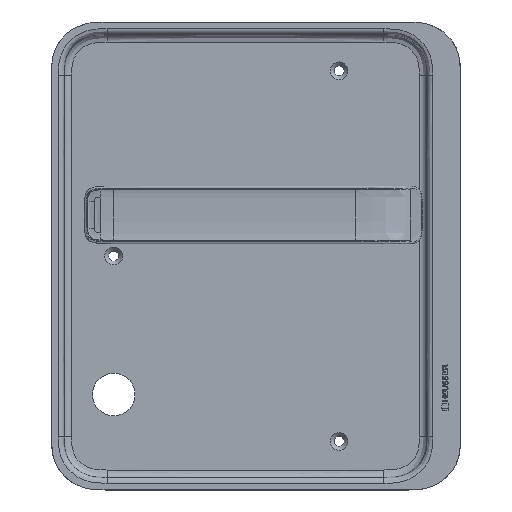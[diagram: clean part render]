
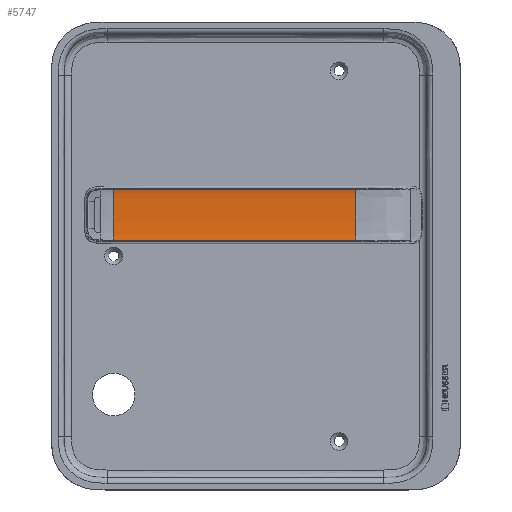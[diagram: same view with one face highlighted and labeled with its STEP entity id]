
A CAD part, top view. The second image highlights one B-rep face of the part: STEP entity #5747.
In plain terms, the highlighted free-form (B-spline) face has degree [1, 5] with [2, 6] control points.
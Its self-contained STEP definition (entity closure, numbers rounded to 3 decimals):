
#98=B_SPLINE_SURFACE_WITH_KNOTS('',1,5,((#11944,#11945,#11946,#11947,#11948,
#11949),(#11950,#11951,#11952,#11953,#11954,#11955)),.UNSPECIFIED.,.F.,
 .F.,.F.,(2,2),(6,6),(0.,1.),(0.,1.),.UNSPECIFIED.);
#227=B_SPLINE_CURVE_WITH_KNOTS('',3,(#8533,#8534,#8535,#8536,#8537,#8538,
#8539,#8540,#8541,#8542,#8543,#8544,#8545,#8546,#8547,#8548,#8549,#8550,
#8551,#8552,#8553,#8554,#8555,#8556,#8557,#8558,#8559,#8560),
 .UNSPECIFIED.,.F.,.F.,(4,3,3,3,3,3,3,3,3,4),(3.015,3.808,
4.601,6.186,7.772,9.358,10.943,
12.529,14.115,15.703),.UNSPECIFIED.);
#233=B_SPLINE_CURVE_WITH_KNOTS('',5,(#8635,#8636,#8637,#8638,#8639,#8640,
#8641,#8642,#8643,#8644,#8645,#8646,#8647,#8648,#8649),.UNSPECIFIED.,.F.,
 .F.,(6,1,1,1,1,1,1,1,1,1,6),(20.644,20.647,22.233,
23.819,25.404,26.99,28.576,30.161,
31.747,32.54,33.333),.UNSPECIFIED.);
#288=B_SPLINE_CURVE_WITH_KNOTS('',5,(#11300,#11301,#11302,#11303,#11304,
#11305),.UNSPECIFIED.,.F.,.F.,(6,6),(0.014,0.986),
 .UNSPECIFIED.);
#305=B_SPLINE_CURVE_WITH_KNOTS('',5,(#11956,#11957,#11958,#11959,#11960,
#11961),.UNSPECIFIED.,.F.,.F.,(6,6),(0.014,0.986),
 .UNSPECIFIED.);
#1514=FACE_OUTER_BOUND('',#1870,.T.);
#1870=EDGE_LOOP('',(#3963,#3964,#3965,#3966));
#2321=VERTEX_POINT('',#8485);
#2322=VERTEX_POINT('',#8532);
#2327=VERTEX_POINT('',#8619);
#2328=VERTEX_POINT('',#8634);
#2884=EDGE_CURVE('',#2321,#2322,#227,.T.);
#2890=EDGE_CURVE('',#2327,#2328,#233,.T.);
#2960=EDGE_CURVE('',#2328,#2321,#288,.T.);
#2996=EDGE_CURVE('',#2327,#2322,#305,.T.);
#3963=ORIENTED_EDGE('',*,*,#2960,.F.);
#3964=ORIENTED_EDGE('',*,*,#2890,.F.);
#3965=ORIENTED_EDGE('',*,*,#2996,.T.);
#3966=ORIENTED_EDGE('',*,*,#2884,.F.);
#5747=ADVANCED_FACE('',(#1514),#98,.T.);
#8485=CARTESIAN_POINT('',(64.029,18.18,10.939));
#8532=CARTESIAN_POINT('',(-62.822,18.181,10.94));
#8533=CARTESIAN_POINT('Ctrl Pts',(64.029,18.18,10.939));
#8534=CARTESIAN_POINT('Ctrl Pts',(61.386,18.18,10.939));
#8535=CARTESIAN_POINT('Ctrl Pts',(58.744,18.18,10.939));
#8536=CARTESIAN_POINT('Ctrl Pts',(56.101,18.18,10.939));
#8537=CARTESIAN_POINT('Ctrl Pts',(53.459,18.18,10.939));
#8538=CARTESIAN_POINT('Ctrl Pts',(50.816,18.18,10.939));
#8539=CARTESIAN_POINT('Ctrl Pts',(48.174,18.18,10.939));
#8540=CARTESIAN_POINT('Ctrl Pts',(42.888,18.18,10.939));
#8541=CARTESIAN_POINT('Ctrl Pts',(37.601,18.18,10.939));
#8542=CARTESIAN_POINT('Ctrl Pts',(32.316,18.18,10.939));
#8543=CARTESIAN_POINT('Ctrl Pts',(27.03,18.18,10.939));
#8544=CARTESIAN_POINT('Ctrl Pts',(21.745,18.18,10.939));
#8545=CARTESIAN_POINT('Ctrl Pts',(16.461,18.18,10.939));
#8546=CARTESIAN_POINT('Ctrl Pts',(11.176,18.18,10.939));
#8547=CARTESIAN_POINT('Ctrl Pts',(5.891,18.18,10.939));
#8548=CARTESIAN_POINT('Ctrl Pts',(0.605,18.18,10.939));
#8549=CARTESIAN_POINT('Ctrl Pts',(-4.681,18.18,10.939));
#8550=CARTESIAN_POINT('Ctrl Pts',(-9.969,18.18,10.94));
#8551=CARTESIAN_POINT('Ctrl Pts',(-15.255,18.18,10.94));
#8552=CARTESIAN_POINT('Ctrl Pts',(-20.541,18.18,10.94));
#8553=CARTESIAN_POINT('Ctrl Pts',(-25.824,18.18,10.94));
#8554=CARTESIAN_POINT('Ctrl Pts',(-31.107,18.18,10.94));
#8555=CARTESIAN_POINT('Ctrl Pts',(-36.39,18.18,10.94));
#8556=CARTESIAN_POINT('Ctrl Pts',(-41.676,18.18,10.94));
#8557=CARTESIAN_POINT('Ctrl Pts',(-46.967,18.18,10.94));
#8558=CARTESIAN_POINT('Ctrl Pts',(-52.268,18.18,10.94));
#8559=CARTESIAN_POINT('Ctrl Pts',(-57.583,18.179,10.94));
#8560=CARTESIAN_POINT('Ctrl Pts',(-62.822,18.181,10.94));
#8619=CARTESIAN_POINT('',(-62.83,44.692,10.94));
#8634=CARTESIAN_POINT('',(64.029,44.693,10.939));
#8635=CARTESIAN_POINT('Ctrl Pts',(-62.83,44.692,10.94));
#8636=CARTESIAN_POINT('Ctrl Pts',(-62.823,44.692,10.94));
#8637=CARTESIAN_POINT('Ctrl Pts',(-59.678,44.693,10.94));
#8638=CARTESIAN_POINT('Ctrl Pts',(-53.342,44.692,10.94));
#8639=CARTESIAN_POINT('Ctrl Pts',(-43.787,44.693,10.94));
#8640=CARTESIAN_POINT('Ctrl Pts',(-31.109,44.692,10.94));
#8641=CARTESIAN_POINT('Ctrl Pts',(-15.259,44.693,10.939));
#8642=CARTESIAN_POINT('Ctrl Pts',(0.608,44.692,10.94));
#8643=CARTESIAN_POINT('Ctrl Pts',(16.461,44.693,10.939));
#8644=CARTESIAN_POINT('Ctrl Pts',(30.728,44.693,10.94));
#8645=CARTESIAN_POINT('Ctrl Pts',(43.418,44.693,10.939));
#8646=CARTESIAN_POINT('Ctrl Pts',(52.932,44.693,10.94));
#8647=CARTESIAN_POINT('Ctrl Pts',(59.272,44.693,10.939));
#8648=CARTESIAN_POINT('Ctrl Pts',(62.443,44.693,10.94));
#8649=CARTESIAN_POINT('Ctrl Pts',(64.029,44.693,10.939));
#11300=CARTESIAN_POINT('Ctrl Pts',(64.029,44.693,10.939));
#11301=CARTESIAN_POINT('Ctrl Pts',(64.029,42.545,10.323));
#11302=CARTESIAN_POINT('Ctrl Pts',(64.029,35.665,10.015));
#11303=CARTESIAN_POINT('Ctrl Pts',(64.029,27.208,10.015));
#11304=CARTESIAN_POINT('Ctrl Pts',(64.029,20.329,10.323));
#11305=CARTESIAN_POINT('Ctrl Pts',(64.029,18.18,10.939));
#11944=CARTESIAN_POINT('Ctrl Pts',(64.029,44.837,10.984));
#11945=CARTESIAN_POINT('Ctrl Pts',(64.029,42.91,10.332));
#11946=CARTESIAN_POINT('Ctrl Pts',(64.029,35.833,10.006));
#11947=CARTESIAN_POINT('Ctrl Pts',(64.029,27.04,10.006));
#11948=CARTESIAN_POINT('Ctrl Pts',(64.029,19.963,10.332));
#11949=CARTESIAN_POINT('Ctrl Pts',(64.029,18.036,10.984));
#11950=CARTESIAN_POINT('Ctrl Pts',(-62.839,44.837,10.984));
#11951=CARTESIAN_POINT('Ctrl Pts',(-62.84,42.91,10.332));
#11952=CARTESIAN_POINT('Ctrl Pts',(-62.841,35.833,10.006));
#11953=CARTESIAN_POINT('Ctrl Pts',(-62.841,27.04,10.006));
#11954=CARTESIAN_POINT('Ctrl Pts',(-62.84,19.963,10.332));
#11955=CARTESIAN_POINT('Ctrl Pts',(-62.839,18.036,10.984));
#11956=CARTESIAN_POINT('Ctrl Pts',(-62.822,44.692,10.94));
#11957=CARTESIAN_POINT('Ctrl Pts',(-62.824,42.544,10.323));
#11958=CARTESIAN_POINT('Ctrl Pts',(-62.825,35.665,10.015));
#11959=CARTESIAN_POINT('Ctrl Pts',(-62.825,27.209,10.015));
#11960=CARTESIAN_POINT('Ctrl Pts',(-62.824,20.33,10.323));
#11961=CARTESIAN_POINT('Ctrl Pts',(-62.822,18.181,10.94));
